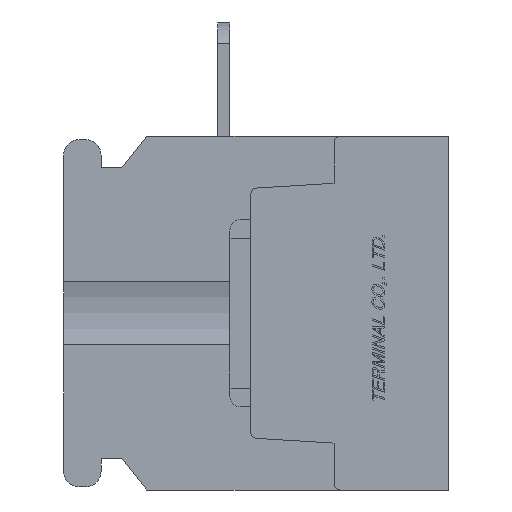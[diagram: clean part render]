
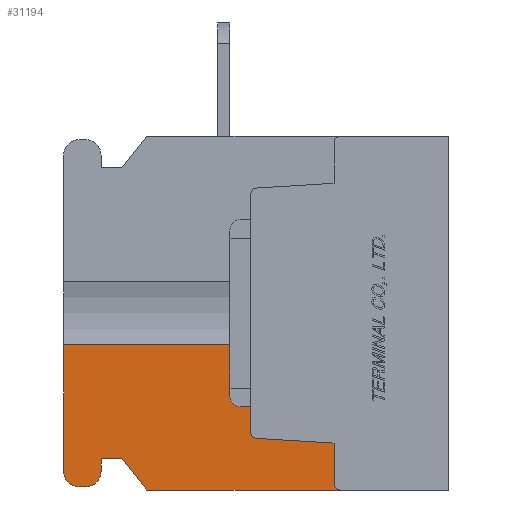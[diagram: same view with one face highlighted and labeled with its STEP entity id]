
A CAD part, left-side view. The second image highlights one B-rep face of the part: STEP entity #31194.
In plain terms, the highlighted planar face has unit normal (-1, 0, 0).
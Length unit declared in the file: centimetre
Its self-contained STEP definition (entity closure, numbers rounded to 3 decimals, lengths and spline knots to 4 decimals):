
#904=CIRCLE('',#51758,0.075);
#905=CIRCLE('',#51759,0.075);
#906=CIRCLE('',#51760,0.03);
#907=CIRCLE('',#51761,0.03);
#2130=VERTEX_POINT('',#42961);
#2131=VERTEX_POINT('',#42962);
#2132=VERTEX_POINT('',#42964);
#2133=VERTEX_POINT('',#42966);
#2134=VERTEX_POINT('',#42968);
#2135=VERTEX_POINT('',#42970);
#2136=VERTEX_POINT('',#42972);
#2137=VERTEX_POINT('',#42974);
#2138=VERTEX_POINT('',#42976);
#2139=VERTEX_POINT('',#42978);
#2140=VERTEX_POINT('',#42980);
#2141=VERTEX_POINT('',#42982);
#2142=VERTEX_POINT('',#42984);
#2143=VERTEX_POINT('',#42986);
#5452=VECTOR('',#34936,1.);
#5453=VECTOR('',#34937,1.);
#5454=VECTOR('',#34938,1.);
#5455=VECTOR('',#34941,1.);
#5456=VECTOR('',#34944,1.);
#5457=VECTOR('',#34945,1.);
#5458=VECTOR('',#34946,1.);
#5459=VECTOR('',#34947,1.);
#5460=VECTOR('',#34950,1.);
#5461=VECTOR('',#34951,1.);
#9067=LINE('',#42960,#5452);
#9068=LINE('',#42963,#5453);
#9069=LINE('',#42965,#5454);
#9070=LINE('',#42969,#5455);
#9071=LINE('',#42973,#5456);
#9072=LINE('',#42975,#5457);
#9073=LINE('',#42977,#5458);
#9074=LINE('',#42979,#5459);
#9075=LINE('',#42983,#5460);
#9076=LINE('',#42985,#5461);
#12894=EDGE_CURVE('',#2130,#2131,#9067,.T.);
#12895=EDGE_CURVE('',#2130,#2132,#9068,.T.);
#12896=EDGE_CURVE('',#2133,#2132,#9069,.T.);
#12897=EDGE_CURVE('',#2134,#2133,#904,.T.);
#12898=EDGE_CURVE('',#2135,#2134,#9070,.T.);
#12899=EDGE_CURVE('',#2136,#2135,#905,.T.);
#12900=EDGE_CURVE('',#2137,#2136,#9071,.T.);
#12901=EDGE_CURVE('',#2138,#2137,#9072,.T.);
#12902=EDGE_CURVE('',#2139,#2138,#9073,.T.);
#12903=EDGE_CURVE('',#2140,#2139,#9074,.T.);
#12904=EDGE_CURVE('',#2141,#2140,#906,.T.);
#12905=EDGE_CURVE('',#2142,#2141,#9075,.T.);
#12906=EDGE_CURVE('',#2143,#2142,#9076,.T.);
#12907=EDGE_CURVE('',#2131,#2143,#907,.T.);
#18675=ORIENTED_EDGE('',*,*,#12894,.F.);
#18676=ORIENTED_EDGE('',*,*,#12895,.T.);
#18677=ORIENTED_EDGE('',*,*,#12896,.F.);
#18678=ORIENTED_EDGE('',*,*,#12897,.F.);
#18679=ORIENTED_EDGE('',*,*,#12898,.F.);
#18680=ORIENTED_EDGE('',*,*,#12899,.F.);
#18681=ORIENTED_EDGE('',*,*,#12900,.F.);
#18682=ORIENTED_EDGE('',*,*,#12901,.F.);
#18683=ORIENTED_EDGE('',*,*,#12902,.F.);
#18684=ORIENTED_EDGE('',*,*,#12903,.F.);
#18685=ORIENTED_EDGE('',*,*,#12904,.F.);
#18686=ORIENTED_EDGE('',*,*,#12905,.F.);
#18687=ORIENTED_EDGE('',*,*,#12906,.F.);
#18688=ORIENTED_EDGE('',*,*,#12907,.F.);
#27197=EDGE_LOOP('',(#18675,#18676,#18677,#18678,#18679,#18680,#18681,#18682,
#18683,#18684,#18685,#18686,#18687,#18688));
#29213=FACE_BOUND('',#27197,.T.);
#31194=ADVANCED_FACE('',(#29213),#32890,.F.);
#32890=PLANE('',#51757);
#34935=DIRECTION('',(1.,0.,0.));
#34936=DIRECTION('',(0.,0.,-1.));
#34937=DIRECTION('',(0.,1.,0.));
#34938=DIRECTION('',(0.,0.,1.));
#34939=DIRECTION('',(1.,0.,0.));
#34940=DIRECTION('',(0.,0.,-0.075));
#34941=DIRECTION('',(0.,1.,0.));
#34942=DIRECTION('',(1.,0.,0.));
#34943=DIRECTION('',(0.,0.,-0.075));
#34944=DIRECTION('',(0.,0.,-1.));
#34945=DIRECTION('',(0.,1.,0.));
#34946=DIRECTION('',(0.,0.625,0.781));
#34947=DIRECTION('',(0.,1.,0.));
#34948=DIRECTION('',(-1.,0.,0.));
#34949=DIRECTION('',(0.,0.,0.03));
#34950=DIRECTION('',(0.,0.,-1.));
#34951=DIRECTION('',(0.,-0.998,-0.061));
#34952=DIRECTION('',(-1.,0.,0.));
#34953=DIRECTION('',(0.,0.,0.03));
#42959=CARTESIAN_POINT('',(-1.1,0.9454,0.));
#42960=CARTESIAN_POINT('',(-1.1,0.95,0.5718));
#42961=CARTESIAN_POINT('',(-1.1,0.95,-0.1521));
#42962=CARTESIAN_POINT('',(-1.1,0.95,-0.5718));
#42963=CARTESIAN_POINT('',(-1.1,1.4,-0.1521));
#42964=CARTESIAN_POINT('',(-1.1,1.85,-0.1521));
#42965=CARTESIAN_POINT('',(-1.1,1.85,-0.76));
#42966=CARTESIAN_POINT('',(-1.1,1.85,-0.76));
#42967=CARTESIAN_POINT('',(-1.1,1.775,-0.76));
#42968=CARTESIAN_POINT('',(-1.1,1.775,-0.835));
#42969=CARTESIAN_POINT('',(-1.1,1.745,-0.835));
#42970=CARTESIAN_POINT('',(-1.1,1.745,-0.835));
#42971=CARTESIAN_POINT('',(-1.1,1.745,-0.76));
#42972=CARTESIAN_POINT('',(-1.1,1.67,-0.76));
#42973=CARTESIAN_POINT('',(-1.1,1.67,-0.7));
#42974=CARTESIAN_POINT('',(-1.1,1.67,-0.7));
#42975=CARTESIAN_POINT('',(-1.1,1.57,-0.7));
#42976=CARTESIAN_POINT('',(-1.1,1.57,-0.7));
#42977=CARTESIAN_POINT('',(-1.1,1.45,-0.85));
#42978=CARTESIAN_POINT('',(-1.1,1.45,-0.85));
#42979=CARTESIAN_POINT('',(-1.1,0.,-0.85));
#42980=CARTESIAN_POINT('',(-1.1,0.52,-0.85));
#42981=CARTESIAN_POINT('',(-1.1,0.52,-0.82));
#42982=CARTESIAN_POINT('',(-1.1,0.55,-0.82));
#42983=CARTESIAN_POINT('',(-1.1,0.55,-0.6245));
#42984=CARTESIAN_POINT('',(-1.1,0.55,-0.6245));
#42985=CARTESIAN_POINT('',(-1.1,0.9218,-0.6017));
#42986=CARTESIAN_POINT('',(-1.1,0.9218,-0.6017));
#42987=CARTESIAN_POINT('',(-1.1,0.92,-0.5718));
#51757=AXIS2_PLACEMENT_3D('',#42959,#34935,$);
#51758=AXIS2_PLACEMENT_3D('',#42967,#34939,#34940);
#51759=AXIS2_PLACEMENT_3D('',#42971,#34942,#34943);
#51760=AXIS2_PLACEMENT_3D('',#42981,#34948,#34949);
#51761=AXIS2_PLACEMENT_3D('',#42987,#34952,#34953);
